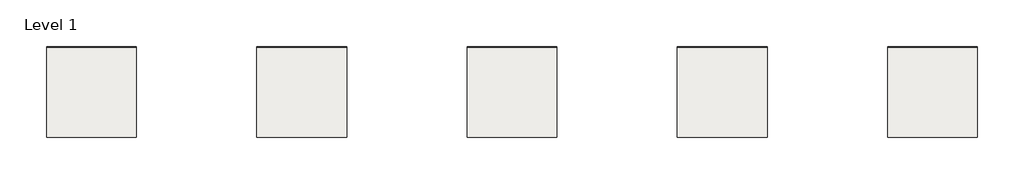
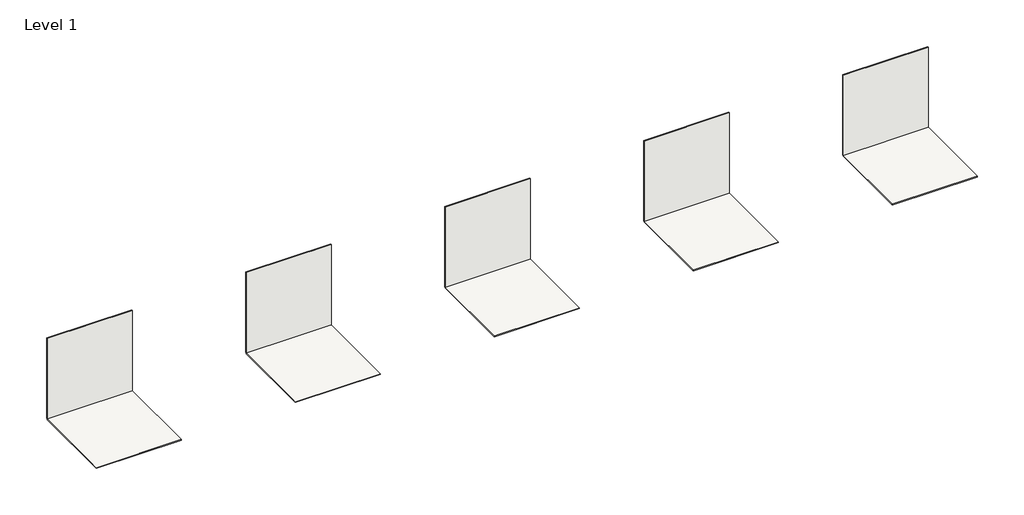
# One storey: 10 coverings.
"""IFC4 building model written with IfcOpenShell, lengths in millimetres."""

from ifc_helpers import new_model, si_unit, frame, origin, origin_with_axes, place, context, project, spatial, polyline, outline, extrude, element, save

model = new_model("IFC4")

# Units and contexts
model_context = context("Model", 3, world=origin())
ifc_project = project(units=[si_unit("LENGTHUNIT", "METRE", prefix="MILLI")], contexts=[model_context])

# Site, building, storey
site = spatial("IfcSite", under=ifc_project)
building = spatial("IfcBuilding", under=site)
storey = spatial("IfcBuildingStorey", under=building, Name="Level 1", Elevation=0.0)

# Coverings
placement = place(None, origin())
element("IfcCovering", 1, ObjectType="REVIGRÉS-REFLEX-BASE-59,2x118,6-RECT-CARBON", at=placement, inside=storey, context=model_context, shape_type="SweptSolid", body=[
    extrude(outline(polyline([(2487.4203852, -672.9112499), (1487.4203852, -672.9112499), (1487.4203852, -663.1112499), (2487.4203852, -663.1112499), (2487.4203852, -672.9112499)])), origin_with_axes(), (0.0, 0.0, 1.0), 1000.0),
])
element("IfcCovering", 2, ObjectType="REVIGRÉS-REFLEX-BASE-59,2x118,6-RECT-CARBON", at=placement, inside=storey, context=model_context, shape_type="SweptSolid", body=[
    extrude(outline(polyline([(2487.4203852, -672.9112499), (2487.4203852, -1672.2612499), (1487.4203852, -1672.2612499), (1487.4203852, -672.9112499), (2487.4203852, -672.9112499)])), frame((0.0, 0.0, -9.8), z_axis=(0.0, 0.0, 1.0), x_axis=(1.0, 0.0, 0.0)), (0.0, 0.0, 1.0), 9.8),
])
element("IfcCovering", 3, ObjectType="REVIGRÉS-REFLEX-BASE-59,2x118,6-RECT-CORTEN", at=placement, inside=storey, context=model_context, shape_type="SweptSolid", body=[
    extrude(outline(polyline([(4827.4203852, -672.9112499), (3827.4203852, -672.9112499), (3827.4203852, -663.1112499), (4827.4203852, -663.1112499), (4827.4203852, -672.9112499)])), origin_with_axes(), (0.0, 0.0, 1.0), 1000.0),
])
element("IfcCovering", 4, ObjectType="REVIGRÉS-REFLEX-BASE-59,2x118,6-RECT-CORTEN", at=placement, inside=storey, context=model_context, shape_type="SweptSolid", body=[
    extrude(outline(polyline([(4827.4203852, -672.9112499), (4827.4203852, -1672.2612499), (3827.4203852, -1672.2612499), (3827.4203852, -672.9112499), (4827.4203852, -672.9112499)])), frame((0.0, 0.0, -9.8), z_axis=(0.0, 0.0, 1.0), x_axis=(1.0, 0.0, 0.0)), (0.0, 0.0, 1.0), 9.8),
])
element("IfcCovering", 5, ObjectType="REVIGRÉS-REFLEX-BASE-59,2x118,6-RECT-GOLD", at=placement, inside=storey, context=model_context, shape_type="SweptSolid", body=[
    extrude(outline(polyline([(7167.4203852, -672.9112499), (6167.4203852, -672.9112499), (6167.4203852, -663.1112499), (7167.4203852, -663.1112499), (7167.4203852, -672.9112499)])), origin_with_axes(), (0.0, 0.0, 1.0), 1000.0),
])
element("IfcCovering", 6, ObjectType="REVIGRÉS-REFLEX-BASE-59,2x118,6-RECT-GOLD", at=placement, inside=storey, context=model_context, shape_type="SweptSolid", body=[
    extrude(outline(polyline([(7167.4203852, -672.9112499), (7167.4203852, -1672.2612499), (6167.4203852, -1672.2612499), (6167.4203852, -672.9112499), (7167.4203852, -672.9112499)])), frame((0.0, 0.0, -9.8), z_axis=(0.0, 0.0, 1.0), x_axis=(1.0, 0.0, 0.0)), (0.0, 0.0, 1.0), 9.8),
])
element("IfcCovering", 7, ObjectType="REVIGRÉS-REFLEX-BASE-59,2x118,6-RECT-OXIDE", at=placement, inside=storey, context=model_context, shape_type="SweptSolid", body=[
    extrude(outline(polyline([(9507.4203852, -672.9112499), (8507.4203852, -672.9112499), (8507.4203852, -663.1112499), (9507.4203852, -663.1112499), (9507.4203852, -672.9112499)])), origin_with_axes(), (0.0, 0.0, 1.0), 1000.0),
])
element("IfcCovering", 8, ObjectType="REVIGRÉS-REFLEX-BASE-59,2x118,6-RECT-OXIDE", at=placement, inside=storey, context=model_context, shape_type="SweptSolid", body=[
    extrude(outline(polyline([(9507.4203852, -672.9112499), (9507.4203852, -1672.2612499), (8507.4203852, -1672.2612499), (8507.4203852, -672.9112499), (9507.4203852, -672.9112499)])), frame((0.0, 0.0, -9.8), z_axis=(0.0, 0.0, 1.0), x_axis=(1.0, 0.0, 0.0)), (0.0, 0.0, 1.0), 9.8),
])
element("IfcCovering", 9, ObjectType="REVIGRÉS-REFLEX-BASE-59,2x118,6-RECT-SILVER", at=placement, inside=storey, context=model_context, shape_type="SweptSolid", body=[
    extrude(outline(polyline([(11847.4203852, -672.9112499), (10847.4203852, -672.9112499), (10847.4203852, -663.1112499), (11847.4203852, -663.1112499), (11847.4203852, -672.9112499)])), origin_with_axes(), (0.0, 0.0, 1.0), 1000.0),
])
element("IfcCovering", 10, ObjectType="REVIGRÉS-REFLEX-BASE-59,2x118,6-RECT-SILVER", at=placement, inside=storey, context=model_context, shape_type="SweptSolid", body=[
    extrude(outline(polyline([(11847.4203852, -672.9112499), (11847.4203852, -1672.2612499), (10847.4203852, -1672.2612499), (10847.4203852, -672.9112499), (11847.4203852, -672.9112499)])), frame((0.0, 0.0, -9.8), z_axis=(0.0, 0.0, 1.0), x_axis=(1.0, 0.0, 0.0)), (0.0, 0.0, 1.0), 9.8),
])

save(model, "model.ifc")
